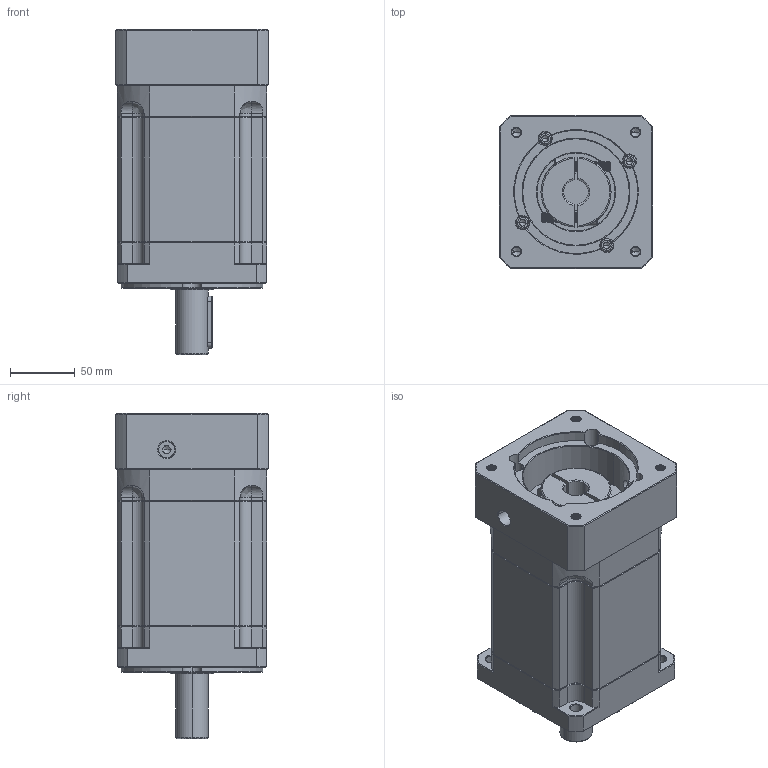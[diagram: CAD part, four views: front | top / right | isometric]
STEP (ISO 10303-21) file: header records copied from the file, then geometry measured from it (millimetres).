
FILE_DESCRIPTION (( 'STEP AP214' ), '1' );
FILE_NAME ('ZB115A-D25-L3-P2-19-95-130-M8.step', '2023-08-26T06:25:08', ( '' ), ( '' ), 'SwSTEP 2.0', 'SolidWorks 2016', '' );
FILE_SCHEMA (( 'AUTOMOTIVE_DESIGN' ));
Length unit declared in the file: millimetre
Products named in the file (1): ZB115A-D25-L3-P2-19-95-130-M8
Bounding box: 118 x 118 x 250.5 mm (x, y, z)
Volume: 2223144.5 mm3; surface area: 193923.2 mm2
Topology: 6 solids, 6 shells, 2402 faces, 6320 edges, 4014 vertices
Faces by surface type: plane 1144, cylinder 444, bspline 423, cone 371, torus 20
Entity records: 129544 total; most frequent: CARTESIAN_POINT 47426, ORIENTED_EDGE 12572, DIRECTION 9958, EDGE_CURVE 6286, VERTEX_POINT 4014, VECTOR 4004, LINE 4004, AXIS2_PLACEMENT_3D 2977
